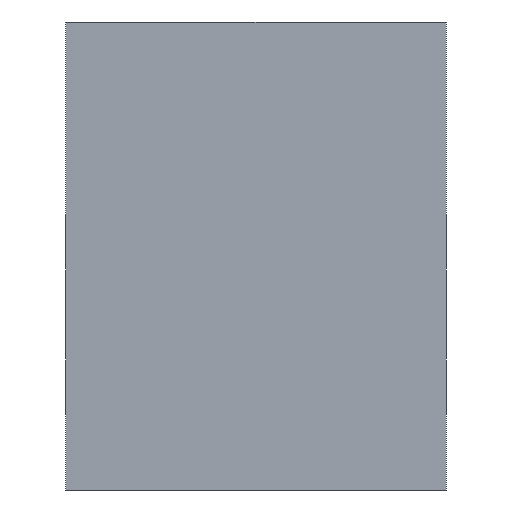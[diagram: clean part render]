
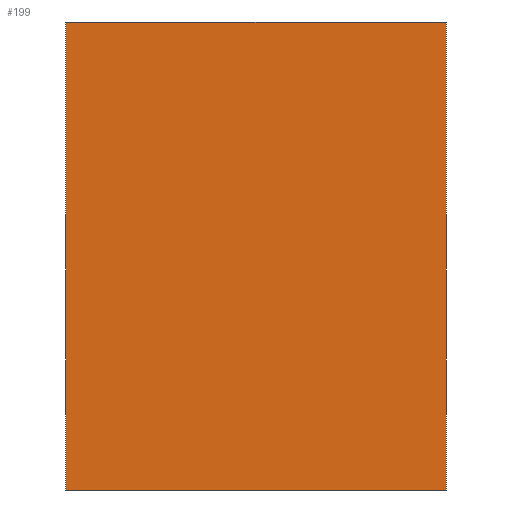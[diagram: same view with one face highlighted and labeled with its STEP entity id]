
A CAD part, front view. The second image highlights one B-rep face of the part: STEP entity #199.
In plain terms, the highlighted planar face has unit normal (0, -1, 0).
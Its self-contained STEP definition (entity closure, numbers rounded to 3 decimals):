
#21 = EDGE_CURVE('',#22,#24,#26,.T.);
#22 = VERTEX_POINT('',#23);
#23 = CARTESIAN_POINT('',(6.,-58.,14.));
#24 = VERTEX_POINT('',#25);
#25 = CARTESIAN_POINT('',(6.,-58.,22.));
#26 = SURFACE_CURVE('',#27,(#31,#43),.PCURVE_S1.);
#27 = LINE('',#28,#29);
#28 = CARTESIAN_POINT('',(6.,-58.,14.));
#29 = VECTOR('',#30,1.);
#30 = DIRECTION('',(0.,0.,1.));
#31 = PCURVE('',#32,#37);
#32 = PLANE('',#33);
#33 = AXIS2_PLACEMENT_3D('',#34,#35,#36);
#34 = CARTESIAN_POINT('',(6.,-58.,14.));
#35 = DIRECTION('',(1.,0.,-0.));
#36 = DIRECTION('',(0.,0.,1.));
#37 = DEFINITIONAL_REPRESENTATION('',(#38),#42);
#38 = LINE('',#39,#40);
#39 = CARTESIAN_POINT('',(0.,0.));
#40 = VECTOR('',#41,1.);
#41 = DIRECTION('',(1.,0.));
#42 = ( GEOMETRIC_REPRESENTATION_CONTEXT(2) 
PARAMETRIC_REPRESENTATION_CONTEXT() REPRESENTATION_CONTEXT('2D SPACE',''
  ) );
#43 = PCURVE('',#44,#49);
#44 = PLANE('',#45);
#45 = AXIS2_PLACEMENT_3D('',#46,#47,#48);
#46 = CARTESIAN_POINT('',(6.,-58.,14.));
#47 = DIRECTION('',(-0.,1.,0.));
#48 = DIRECTION('',(0.,0.,1.));
#49 = DEFINITIONAL_REPRESENTATION('',(#50),#54);
#50 = LINE('',#51,#52);
#51 = CARTESIAN_POINT('',(0.,0.));
#52 = VECTOR('',#53,1.);
#53 = DIRECTION('',(1.,0.));
#54 = ( GEOMETRIC_REPRESENTATION_CONTEXT(2) 
PARAMETRIC_REPRESENTATION_CONTEXT() REPRESENTATION_CONTEXT('2D SPACE',''
  ) );
#72 = PLANE('',#73);
#73 = AXIS2_PLACEMENT_3D('',#74,#75,#76);
#74 = CARTESIAN_POINT('',(6.,-58.,14.));
#75 = DIRECTION('',(0.,0.,1.));
#76 = DIRECTION('',(1.,0.,-0.));
#126 = PLANE('',#127);
#127 = AXIS2_PLACEMENT_3D('',#128,#129,#130);
#128 = CARTESIAN_POINT('',(6.,-58.,22.));
#129 = DIRECTION('',(0.,0.,1.));
#130 = DIRECTION('',(1.,0.,-0.));
#199 = ADVANCED_FACE('',(#200),#44,.F.);
#200 = FACE_BOUND('',#201,.F.);
#201 = EDGE_LOOP('',(#202,#225,#226,#249));
#202 = ORIENTED_EDGE('',*,*,#203,.F.);
#203 = EDGE_CURVE('',#22,#204,#206,.T.);
#204 = VERTEX_POINT('',#205);
#205 = CARTESIAN_POINT('',(12.5,-58.,14.));
#206 = SURFACE_CURVE('',#207,(#211,#218),.PCURVE_S1.);
#207 = LINE('',#208,#209);
#208 = CARTESIAN_POINT('',(6.,-58.,14.));
#209 = VECTOR('',#210,1.);
#210 = DIRECTION('',(1.,0.,-0.));
#211 = PCURVE('',#44,#212);
#212 = DEFINITIONAL_REPRESENTATION('',(#213),#217);
#213 = LINE('',#214,#215);
#214 = CARTESIAN_POINT('',(0.,0.));
#215 = VECTOR('',#216,1.);
#216 = DIRECTION('',(0.,1.));
#217 = ( GEOMETRIC_REPRESENTATION_CONTEXT(2) 
PARAMETRIC_REPRESENTATION_CONTEXT() REPRESENTATION_CONTEXT('2D SPACE',''
  ) );
#218 = PCURVE('',#72,#219);
#219 = DEFINITIONAL_REPRESENTATION('',(#220),#224);
#220 = LINE('',#221,#222);
#221 = CARTESIAN_POINT('',(0.,0.));
#222 = VECTOR('',#223,1.);
#223 = DIRECTION('',(1.,0.));
#224 = ( GEOMETRIC_REPRESENTATION_CONTEXT(2) 
PARAMETRIC_REPRESENTATION_CONTEXT() REPRESENTATION_CONTEXT('2D SPACE',''
  ) );
#225 = ORIENTED_EDGE('',*,*,#21,.T.);
#226 = ORIENTED_EDGE('',*,*,#227,.T.);
#227 = EDGE_CURVE('',#24,#228,#230,.T.);
#228 = VERTEX_POINT('',#229);
#229 = CARTESIAN_POINT('',(12.5,-58.,22.));
#230 = SURFACE_CURVE('',#231,(#235,#242),.PCURVE_S1.);
#231 = LINE('',#232,#233);
#232 = CARTESIAN_POINT('',(6.,-58.,22.));
#233 = VECTOR('',#234,1.);
#234 = DIRECTION('',(1.,0.,-0.));
#235 = PCURVE('',#44,#236);
#236 = DEFINITIONAL_REPRESENTATION('',(#237),#241);
#237 = LINE('',#238,#239);
#238 = CARTESIAN_POINT('',(8.,0.));
#239 = VECTOR('',#240,1.);
#240 = DIRECTION('',(0.,1.));
#241 = ( GEOMETRIC_REPRESENTATION_CONTEXT(2) 
PARAMETRIC_REPRESENTATION_CONTEXT() REPRESENTATION_CONTEXT('2D SPACE',''
  ) );
#242 = PCURVE('',#126,#243);
#243 = DEFINITIONAL_REPRESENTATION('',(#244),#248);
#244 = LINE('',#245,#246);
#245 = CARTESIAN_POINT('',(0.,0.));
#246 = VECTOR('',#247,1.);
#247 = DIRECTION('',(1.,0.));
#248 = ( GEOMETRIC_REPRESENTATION_CONTEXT(2) 
PARAMETRIC_REPRESENTATION_CONTEXT() REPRESENTATION_CONTEXT('2D SPACE',''
  ) );
#249 = ORIENTED_EDGE('',*,*,#250,.F.);
#250 = EDGE_CURVE('',#204,#228,#251,.T.);
#251 = SURFACE_CURVE('',#252,(#256,#263),.PCURVE_S1.);
#252 = LINE('',#253,#254);
#253 = CARTESIAN_POINT('',(12.5,-58.,14.));
#254 = VECTOR('',#255,1.);
#255 = DIRECTION('',(0.,0.,1.));
#256 = PCURVE('',#44,#257);
#257 = DEFINITIONAL_REPRESENTATION('',(#258),#262);
#258 = LINE('',#259,#260);
#259 = CARTESIAN_POINT('',(0.,6.5));
#260 = VECTOR('',#261,1.);
#261 = DIRECTION('',(1.,0.));
#262 = ( GEOMETRIC_REPRESENTATION_CONTEXT(2) 
PARAMETRIC_REPRESENTATION_CONTEXT() REPRESENTATION_CONTEXT('2D SPACE',''
  ) );
#263 = PCURVE('',#264,#269);
#264 = PLANE('',#265);
#265 = AXIS2_PLACEMENT_3D('',#266,#267,#268);
#266 = CARTESIAN_POINT('',(12.5,-58.,14.));
#267 = DIRECTION('',(1.,0.,-0.));
#268 = DIRECTION('',(0.,0.,1.));
#269 = DEFINITIONAL_REPRESENTATION('',(#270),#274);
#270 = LINE('',#271,#272);
#271 = CARTESIAN_POINT('',(0.,0.));
#272 = VECTOR('',#273,1.);
#273 = DIRECTION('',(1.,0.));
#274 = ( GEOMETRIC_REPRESENTATION_CONTEXT(2) 
PARAMETRIC_REPRESENTATION_CONTEXT() REPRESENTATION_CONTEXT('2D SPACE',''
  ) );
